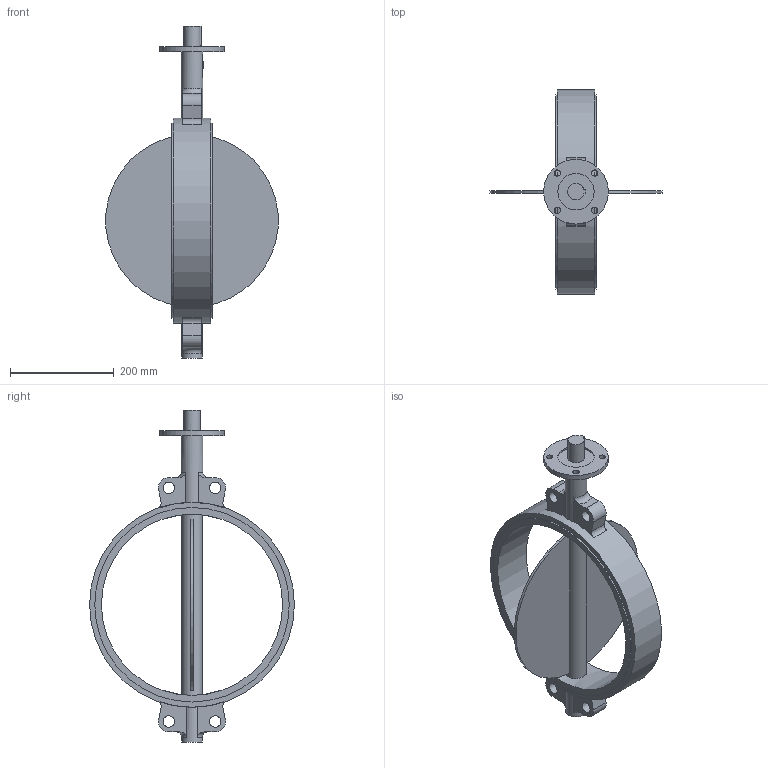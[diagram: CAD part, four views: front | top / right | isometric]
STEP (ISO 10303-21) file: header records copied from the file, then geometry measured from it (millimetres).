
FILE_DESCRIPTION(('STEP AP203'), '1');
FILE_NAME('青蜮铕 017W.Y_DN350_PN10', '', ('UNSPECIFIED'), ('UNSPECIFIED'), 'ASCON STEP Converter 1.6', 'ASCON Math Kernel', '');
FILE_SCHEMA(('CONFIG_CONTROL_DESIGN'));
Length unit declared in the file: millimetre
Bounding box: 332.11 x 395.6 x 641 mm (x, y, z)
Volume: 3494902 mm3; surface area: 510180 mm2
Topology: 1 solids, 1 shells, 89 faces, 220 edges, 146 vertices
Faces by surface type: plane 48, cylinder 37, torus 4
Full cylindrical faces by diameter (mm): 12 x4, 22 x4, 31.7 x1, 40 x2, 42 x1, 70 x1, 125 x1, 350 x1, 375.6 x2, 395.6 x1
Entity records: 4594 total; most frequent: CARTESIAN_POINT 1702, DIRECTION 452, ORIENTED_EDGE 404, EDGE_CURVE 202, AXIS2_PLACEMENT_3D 180, VERTEX_POINT 146, EDGE_LOOP 140, FACE_BOUND 107
